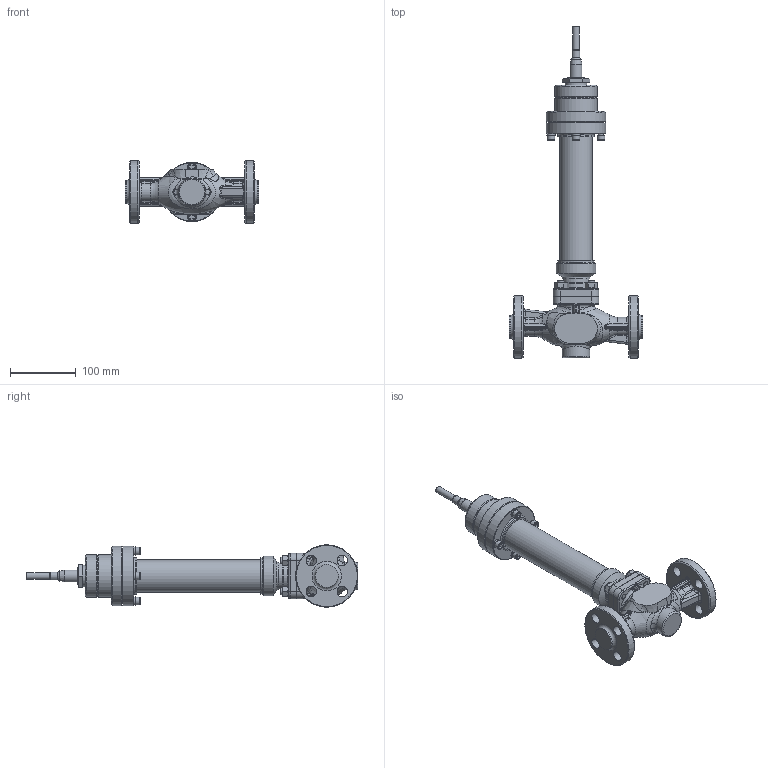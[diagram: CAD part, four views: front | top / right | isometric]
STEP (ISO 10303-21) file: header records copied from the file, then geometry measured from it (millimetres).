
FILE_DESCRIPTION(/* description */ (''),/* implementation_level */ '2;1');
FILE_NAME(/* name */ 'CV3xx_NPS_1_2_priruba_CL600_vlnovec.stp',/* time_stamp */ '2015-08-11T10:12:33+02:00',/* author */ (''),/* organization */ (''),/* preprocessor_version */ 'ST-DEVELOPER v15',/* originating_system */ 'SIEMENS PLM Software NX 8.5',/* authorisation */ '');
FILE_SCHEMA (('AP203_CONFIGURATION_CONTROLLED_3D_DESIGN_OF_MECHANICAL_PARTS_AND_ASSEMBLIES_MIM_LF { 1 0 10303 403 2 1 2}'));
Length unit declared in the file: millimetre
Products named in the file (1): adam1354300Culao
Bounding box: 203 x 505.5 x 95 mm (x, y, z)
Volume: 1528711.2 mm3; surface area: 177184.5 mm2
Topology: 1 solids, 2 shells, 678 faces, 1596 edges, 951 vertices
Faces by surface type: cylinder 194, plane 179, bspline 137, cone 95, torus 65, sphere 8
Full cylindrical faces by diameter (mm): 7 x4, 7.76 x4, 8.344 x4, 9 x4, 10 x9, 11 x4, 11.64 x4, 12 x1, 15.9 x8, 16 x8, 18 x1, 27 x1, 33 x1, 34.9 x2, 41 x1, 42 x3, 48 x2, 50 x1, 50.3 x2, 55 x2, 58 x1, 60 x1, 61.6 x1, 64 x1, 65 x1, 90 x2, 95 x2
Entity records: 21448 total; most frequent: CARTESIAN_POINT 7609, ORIENTED_EDGE 2776, DIRECTION 2765, EDGE_CURVE 1388, AXIS2_PLACEMENT_3D 1206, EDGE_LOOP 884, VERTEX_POINT 878, ADVANCED_FACE 678
